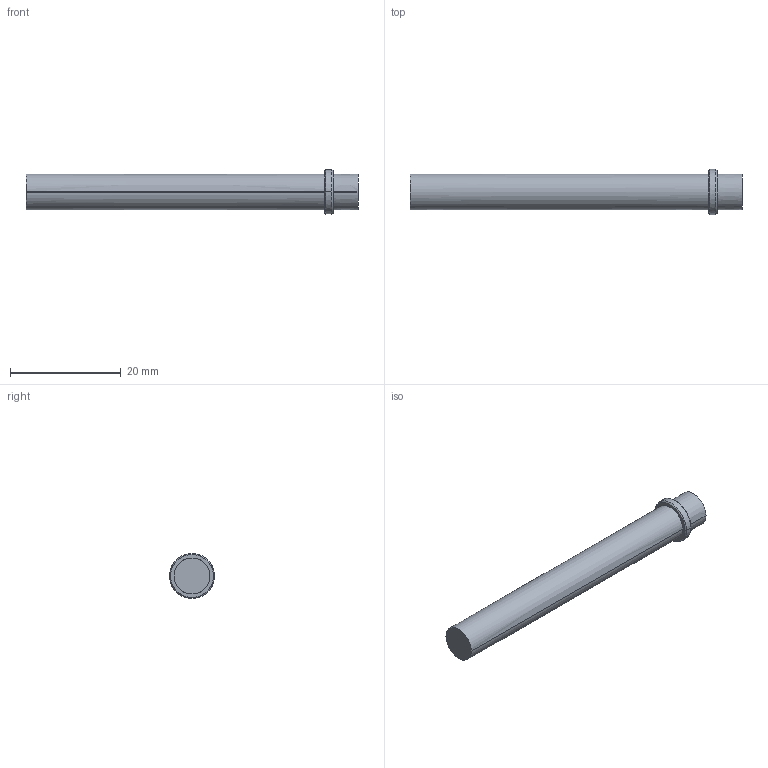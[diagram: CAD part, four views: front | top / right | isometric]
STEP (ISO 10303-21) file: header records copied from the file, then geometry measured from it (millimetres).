
FILE_DESCRIPTION((''),'2;1');
FILE_NAME('872C-M3NN7-P3','2010-07-10T',('Administrator'),(''),'PRO/ENGINEER BY PARAMETRIC TECHNOLOGY CORPORATION, 2007390','PRO/ENGINEER BY PARAMETRIC TECHNOLOGY CORPORATION, 2007390','');
FILE_SCHEMA(('CONFIG_CONTROL_DESIGN'));
Length unit declared in the file: millimetre
Products named in the file (1): 872C-M3NN7-P3
Bounding box: 60 x 8.14 x 8.14 mm (x, y, z)
Surface area: 1330.9 mm2 (no closed solid volume)
Topology: 0 solids, 0 shells, 14 faces, 70 edges, 80 vertices
Faces by surface type: bspline 14
Entity records: 1814 total; most frequent: CARTESIAN_POINT 1225, DIRECTION 98, TRIMMED_CURVE 72, DEFINITIONAL_REPRESENTATION 52, PCURVE 52, COMPOSITE_CURVE_SEGMENT 52, VECTOR 48, LINE 48
